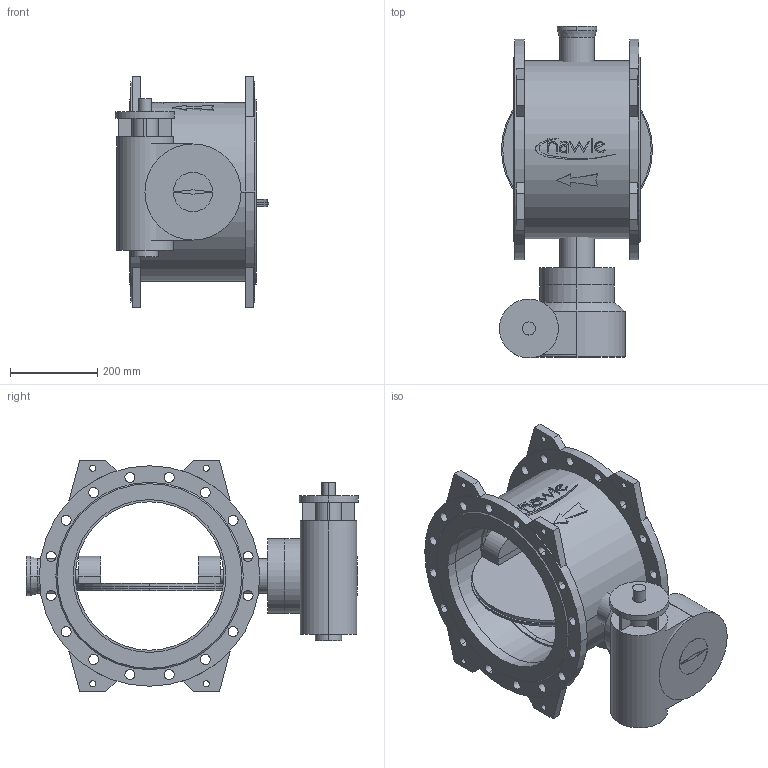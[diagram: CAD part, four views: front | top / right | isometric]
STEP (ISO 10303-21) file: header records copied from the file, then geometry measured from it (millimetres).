
FILE_DESCRIPTION(('STEP AP214'),'1');
FILE_NAME('S:/EK/USER/CAT6/3DHomepage_27-04-2012/neu_08-01-2013/9881K/9881K_PN10_DN350.STP','2013-02-26T15:34:43',(' '),(' '),'Spatial InterOp 3D',' ',' ');
FILE_SCHEMA(('automotive_design'));
Length unit declared in the file: millimetre
Products named in the file (48): 3D-Objekt
Bounding box: 350.5 x 760.5 x 528 mm (x, y, z)
Volume: 29146141.3 mm3; surface area: 2460783.6 mm2
Topology: 48 solids, 48 shells, 387 faces, 864 edges, 576 vertices
Faces by surface type: plane 198, cylinder 181, cone 8
Entity records: 15262 total; most frequent: DIRECTION 2112, CARTESIAN_POINT 1875, ORIENTED_EDGE 1728, EDGE_CURVE 864, AXIS2_PLACEMENT_3D 813, VERTEX_POINT 576, LINE 486, VECTOR 486
